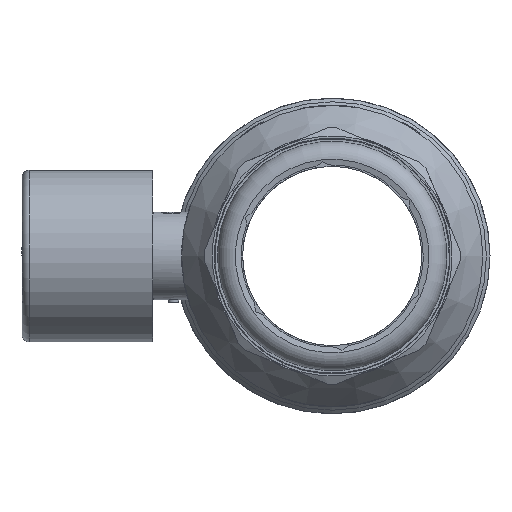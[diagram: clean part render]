
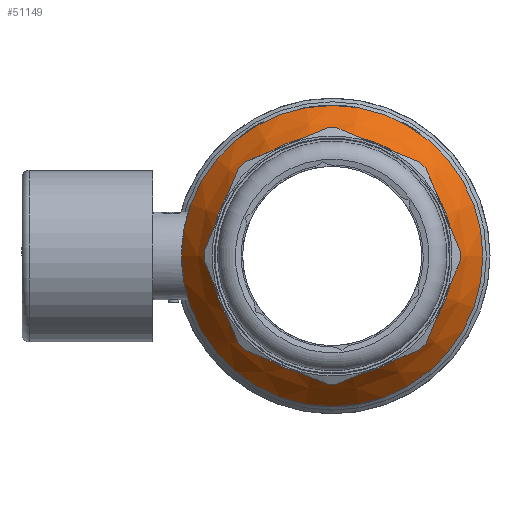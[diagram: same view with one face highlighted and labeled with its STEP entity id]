
A CAD part, left-side view. The second image highlights one B-rep face of the part: STEP entity #51149.
In plain terms, the highlighted conical face has half-angle 35 degrees and reference radius 41.1 mm.
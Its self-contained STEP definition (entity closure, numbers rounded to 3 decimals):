
#51118=CARTESIAN_POINT('',(-27.5,33.0,0.0));
#51119=VERTEX_POINT('',#51118);
#51120=CARTESIAN_POINT('',(-27.5,0.0,0.));
#51121=DIRECTION('',(1.0,0.0,0.0));
#51122=DIRECTION('',(0.0,1.0,0.0));
#51123=AXIS2_PLACEMENT_3D('',#51120,#51121,#51122);
#51124=CIRCLE('',#51123,33.0);
#51125=EDGE_CURVE('',#51119,#51119,#51124,.T.);
#51130=CARTESIAN_POINT('',(-15.932,0.0,0.));
#51131=DIRECTION('',(1.0,0.0,0.0));
#51132=DIRECTION('',(0.0,0.0,-1.0));
#51133=AXIS2_PLACEMENT_3D('',#51130,#51131,#51132);
#51134=CONICAL_SURFACE('',#51133,41.1,35.);
#51135=ORIENTED_EDGE('',*,*,#51125,.T.);
#51136=EDGE_LOOP('',(#51135));
#51137=FACE_OUTER_BOUND('',#51136,.T.);
#51138=CARTESIAN_POINT('',(-14.647,42.0,0.0));
#51139=VERTEX_POINT('',#51138);
#51140=CARTESIAN_POINT('',(-14.647,0.,0.));
#51141=DIRECTION('',(1.0,0.0,0.0));
#51142=DIRECTION('',(0.0,1.0,0.0));
#51143=AXIS2_PLACEMENT_3D('',#51140,#51141,#51142);
#51144=CIRCLE('',#51143,42.0);
#51145=EDGE_CURVE('',#51139,#51139,#51144,.T.);
#51146=ORIENTED_EDGE('',*,*,#51145,.F.);
#51147=EDGE_LOOP('',(#51146));
#51148=FACE_BOUND('',#51147,.T.);
#51149=ADVANCED_FACE('',(#51137,#51148),#51134,.T.);
